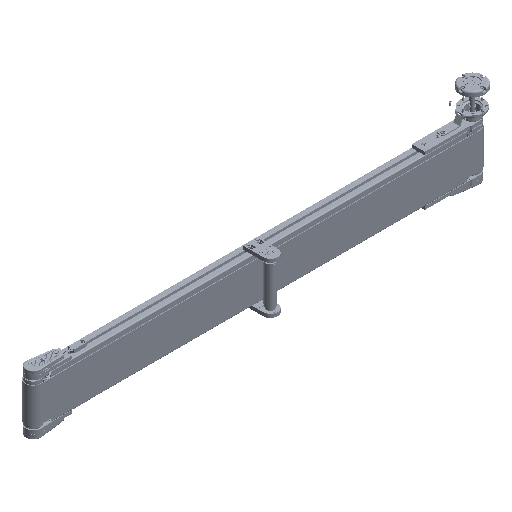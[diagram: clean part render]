
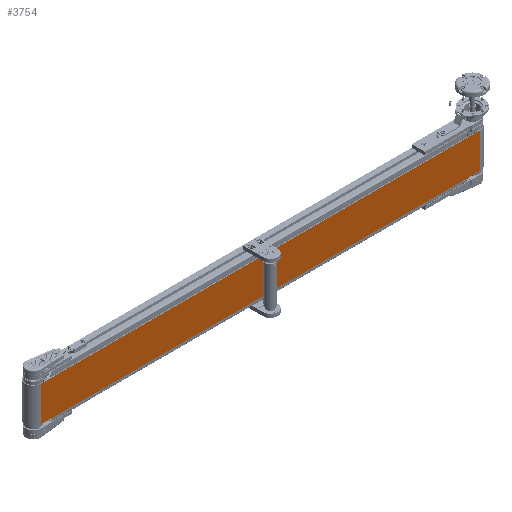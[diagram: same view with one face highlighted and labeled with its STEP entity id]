
A CAD part, isometric view. The second image highlights one B-rep face of the part: STEP entity #3754.
In plain terms, the highlighted planar face has unit normal (0, -1, 0).
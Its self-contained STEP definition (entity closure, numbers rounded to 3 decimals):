
#1471 = CARTESIAN_POINT ( 'NONE',  ( 750., -27., 60. ) ) ;
#3754 = ADVANCED_FACE ( 'NONE', ( #50856 ), #127546, .F. ) ;
#11901 = VECTOR ( 'NONE', #70831, 1000. ) ;
#14473 = DIRECTION ( 'NONE',  ( 0., 0., -1. ) ) ;
#18395 = DIRECTION ( 'NONE',  ( 0., 1., 0. ) ) ;
#21798 = CARTESIAN_POINT ( 'NONE',  ( 750., -27., -60. ) ) ;
#24007 = LINE ( 'NONE', #31184, #11901 ) ;
#29770 = LINE ( 'NONE', #128530, #54374 ) ;
#31184 = CARTESIAN_POINT ( 'NONE',  ( -750., -27., 60. ) ) ;
#33974 = LINE ( 'NONE', #113262, #81495 ) ;
#44624 = ORIENTED_EDGE ( 'NONE', *, *, #121687, .F. ) ;
#49039 = VERTEX_POINT ( 'NONE', #1471 ) ;
#50856 = FACE_OUTER_BOUND ( 'NONE', #99097, .T. ) ;
#54374 = VECTOR ( 'NONE', #69428, 1000. ) ;
#59209 = ORIENTED_EDGE ( 'NONE', *, *, #72082, .T. ) ;
#64656 = VERTEX_POINT ( 'NONE', #95904 ) ;
#69428 = DIRECTION ( 'NONE',  ( 0., 0., -1. ) ) ;
#70831 = DIRECTION ( 'NONE',  ( 1., 0., 0. ) ) ;
#72082 = EDGE_CURVE ( 'NONE', #64656, #93964, #113539, .T. ) ;
#73994 = AXIS2_PLACEMENT_3D ( 'NONE', #90486, #18395, #97685 ) ;
#76434 = ORIENTED_EDGE ( 'NONE', *, *, #110856, .F. ) ;
#77916 = ORIENTED_EDGE ( 'NONE', *, *, #94566, .T. ) ;
#81495 = VECTOR ( 'NONE', #14473, 1000. ) ;
#83012 = DIRECTION ( 'NONE',  ( 1., 0., 0. ) ) ;
#90486 = CARTESIAN_POINT ( 'NONE',  ( -750., -27., 60. ) ) ;
#93964 = VERTEX_POINT ( 'NONE', #21798 ) ;
#94566 = EDGE_CURVE ( 'NONE', #106517, #64656, #33974, .T. ) ;
#95904 = CARTESIAN_POINT ( 'NONE',  ( -750., -27., -60. ) ) ;
#97685 = DIRECTION ( 'NONE',  ( 0., 0., 1. ) ) ;
#99097 = EDGE_LOOP ( 'NONE', ( #59209, #76434, #44624, #77916 ) ) ;
#105031 = CARTESIAN_POINT ( 'NONE',  ( -750., -27., -60. ) ) ;
#105549 = VECTOR ( 'NONE', #83012, 1000. ) ;
#106517 = VERTEX_POINT ( 'NONE', #115590 ) ;
#110856 = EDGE_CURVE ( 'NONE', #49039, #93964, #29770, .T. ) ;
#113262 = CARTESIAN_POINT ( 'NONE',  ( -750., -27., 60. ) ) ;
#113539 = LINE ( 'NONE', #105031, #105549 ) ;
#115590 = CARTESIAN_POINT ( 'NONE',  ( -750., -27., 60. ) ) ;
#121687 = EDGE_CURVE ( 'NONE', #106517, #49039, #24007, .T. ) ;
#127546 = PLANE ( 'NONE',  #73994 ) ;
#128530 = CARTESIAN_POINT ( 'NONE',  ( 750., -27., 60. ) ) ;
